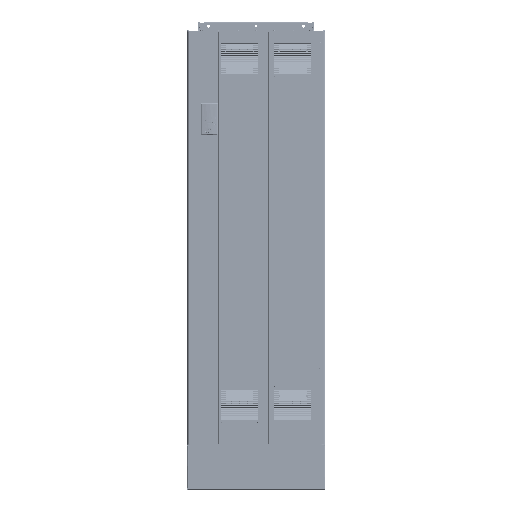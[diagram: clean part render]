
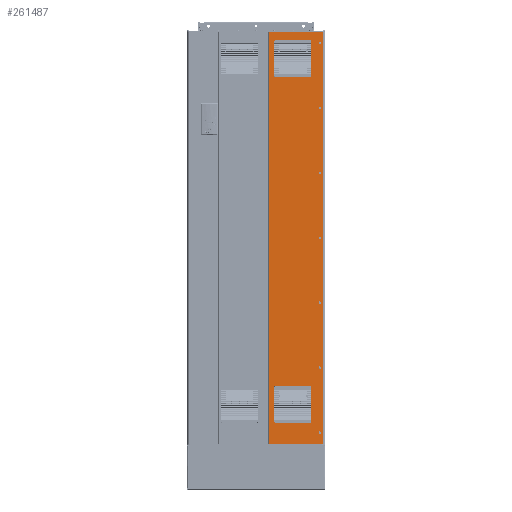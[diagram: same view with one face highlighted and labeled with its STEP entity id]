
A CAD part, top view. The second image highlights one B-rep face of the part: STEP entity #261487.
In plain terms, the highlighted planar face has unit normal (0, 0, 1) as drawn and (0, 0, -1) by its records, which use the part's own axes.
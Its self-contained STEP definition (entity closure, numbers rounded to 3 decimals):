
#260520=DIRECTION('',(-1.,0.,0.));
#260521=VECTOR('',#260520,236.508);
#260522=CARTESIAN_POINT('',(258.808,0.,-3.));
#260523=LINE('',#260522,#260521);
#260718=DIRECTION('',(-1.,0.,0.));
#260719=VECTOR('',#260718,236.508);
#260720=CARTESIAN_POINT('',(258.808,1798.5,-3.));
#260721=LINE('',#260720,#260719);
#260722=DIRECTION('',(0.,-1.,0.));
#260723=VECTOR('',#260722,1798.5);
#260724=CARTESIAN_POINT('',(22.3,1798.5,-3.));
#260725=LINE('',#260724,#260723);
#260726=DIRECTION('',(0.,1.,0.));
#260727=VECTOR('',#260726,1798.5);
#260728=CARTESIAN_POINT('',(258.808,0.,-3.));
#260729=LINE('',#260728,#260727);
#260730=DIRECTION('',(0.,1.,0.));
#260731=VECTOR('',#260730,139.2);
#260732=CARTESIAN_POINT('',(61.281,1557.1,-3.));
#260733=LINE('',#260732,#260731);
#260734=DIRECTION('',(1.,0.,0.));
#260735=VECTOR('',#260734,132.6);
#260736=CARTESIAN_POINT('',(61.281,1696.3,-3.));
#260737=LINE('',#260736,#260735);
#260738=DIRECTION('',(0.,-1.,0.));
#260739=VECTOR('',#260738,139.2);
#260740=CARTESIAN_POINT('',(193.881,1696.3,-3.));
#260741=LINE('',#260740,#260739);
#260742=DIRECTION('',(-1.,0.,0.));
#260743=VECTOR('',#260742,132.6);
#260744=CARTESIAN_POINT('',(193.881,1557.1,-3.));
#260745=LINE('',#260744,#260743);
#260746=DIRECTION('',(0.,1.,0.));
#260747=VECTOR('',#260746,139.2);
#260748=CARTESIAN_POINT('',(61.281,47.2,-3.));
#260749=LINE('',#260748,#260747);
#260750=DIRECTION('',(1.,0.,0.));
#260751=VECTOR('',#260750,132.6);
#260752=CARTESIAN_POINT('',(61.281,186.4,-3.));
#260753=LINE('',#260752,#260751);
#260754=DIRECTION('',(0.,-1.,0.));
#260755=VECTOR('',#260754,139.2);
#260756=CARTESIAN_POINT('',(193.881,186.4,-3.));
#260757=LINE('',#260756,#260755);
#260758=DIRECTION('',(-1.,0.,0.));
#260759=VECTOR('',#260758,132.6);
#260760=CARTESIAN_POINT('',(193.881,47.2,-3.));
#260761=LINE('',#260760,#260759);
#260762=CARTESIAN_POINT('',(245.728,1465.9,-3.));
#260763=DIRECTION('',(0.,0.,-1.));
#260764=DIRECTION('',(1.,0.,0.));
#260765=AXIS2_PLACEMENT_3D('',#260762,#260763,#260764);
#260767=CARTESIAN_POINT('',(245.728,1465.9,-3.));
#260768=DIRECTION('',(0.,0.,-1.));
#260769=DIRECTION('',(-1.,0.,0.));
#260770=AXIS2_PLACEMENT_3D('',#260767,#260768,#260769);
#260772=CARTESIAN_POINT('',(245.728,615.91,-3.));
#260773=DIRECTION('',(0.,0.,-1.));
#260774=DIRECTION('',(1.,0.,0.));
#260775=AXIS2_PLACEMENT_3D('',#260772,#260773,#260774);
#260777=CARTESIAN_POINT('',(245.728,615.91,-3.));
#260778=DIRECTION('',(0.,0.,-1.));
#260779=DIRECTION('',(-1.,0.,0.));
#260780=AXIS2_PLACEMENT_3D('',#260777,#260778,#260779);
#260782=CARTESIAN_POINT('',(245.728,332.58,-3.));
#260783=DIRECTION('',(0.,0.,-1.));
#260784=DIRECTION('',(1.,0.,0.));
#260785=AXIS2_PLACEMENT_3D('',#260782,#260783,#260784);
#260787=CARTESIAN_POINT('',(245.728,332.58,-3.));
#260788=DIRECTION('',(0.,0.,-1.));
#260789=DIRECTION('',(-1.,0.,0.));
#260790=AXIS2_PLACEMENT_3D('',#260787,#260788,#260789);
#260792=CARTESIAN_POINT('',(245.728,1182.57,-3.));
#260793=DIRECTION('',(0.,0.,-1.));
#260794=DIRECTION('',(1.,0.,0.));
#260795=AXIS2_PLACEMENT_3D('',#260792,#260793,#260794);
#260797=CARTESIAN_POINT('',(245.728,1182.57,-3.));
#260798=DIRECTION('',(0.,0.,-1.));
#260799=DIRECTION('',(-1.,0.,0.));
#260800=AXIS2_PLACEMENT_3D('',#260797,#260798,#260799);
#260802=CARTESIAN_POINT('',(245.728,1749.23,-3.));
#260803=DIRECTION('',(0.,0.,-1.));
#260804=DIRECTION('',(1.,0.,0.));
#260805=AXIS2_PLACEMENT_3D('',#260802,#260803,#260804);
#260807=CARTESIAN_POINT('',(245.728,1749.23,-3.));
#260808=DIRECTION('',(0.,0.,-1.));
#260809=DIRECTION('',(-1.,0.,0.));
#260810=AXIS2_PLACEMENT_3D('',#260807,#260808,#260809);
#260812=CARTESIAN_POINT('',(245.728,899.24,-3.));
#260813=DIRECTION('',(0.,0.,-1.));
#260814=DIRECTION('',(1.,0.,0.));
#260815=AXIS2_PLACEMENT_3D('',#260812,#260813,#260814);
#260817=CARTESIAN_POINT('',(245.728,899.24,-3.));
#260818=DIRECTION('',(0.,0.,-1.));
#260819=DIRECTION('',(-1.,0.,0.));
#260820=AXIS2_PLACEMENT_3D('',#260817,#260818,#260819);
#260822=CARTESIAN_POINT('',(245.728,49.25,-3.));
#260823=DIRECTION('',(0.,0.,-1.));
#260824=DIRECTION('',(1.,0.,0.));
#260825=AXIS2_PLACEMENT_3D('',#260822,#260823,#260824);
#260827=CARTESIAN_POINT('',(245.728,49.25,-3.));
#260828=DIRECTION('',(0.,0.,-1.));
#260829=DIRECTION('',(-1.,0.,0.));
#260830=AXIS2_PLACEMENT_3D('',#260827,#260828,#260829);
#261004=CARTESIAN_POINT('',(258.808,0.,-3.));
#261006=VERTEX_POINT('',#261004);
#261015=CARTESIAN_POINT('',(258.808,1798.5,-3.));
#261016=CARTESIAN_POINT('',(22.3,1798.5,-3.));
#261017=VERTEX_POINT('',#261015);
#261018=VERTEX_POINT('',#261016);
#261049=CARTESIAN_POINT('',(61.281,1557.1,-3.));
#261050=CARTESIAN_POINT('',(61.281,1696.3,-3.));
#261051=VERTEX_POINT('',#261049);
#261052=VERTEX_POINT('',#261050);
#261053=CARTESIAN_POINT('',(193.881,1696.3,-3.));
#261054=VERTEX_POINT('',#261053);
#261055=CARTESIAN_POINT('',(193.881,1557.1,-3.));
#261056=VERTEX_POINT('',#261055);
#261065=CARTESIAN_POINT('',(61.281,47.2,-3.));
#261066=CARTESIAN_POINT('',(61.281,186.4,-3.));
#261067=VERTEX_POINT('',#261065);
#261068=VERTEX_POINT('',#261066);
#261069=CARTESIAN_POINT('',(193.881,186.4,-3.));
#261070=VERTEX_POINT('',#261069);
#261071=CARTESIAN_POINT('',(193.881,47.2,-3.));
#261072=VERTEX_POINT('',#261071);
#261074=CARTESIAN_POINT('',(22.3,0.,-3.));
#261076=VERTEX_POINT('',#261074);
#261085=CARTESIAN_POINT('',(248.028,1749.23,-3.));
#261087=VERTEX_POINT('',#261085);
#261089=CARTESIAN_POINT('',(243.428,1749.23,-3.));
#261091=VERTEX_POINT('',#261089);
#261093=CARTESIAN_POINT('',(248.028,1465.9,-3.));
#261095=VERTEX_POINT('',#261093);
#261097=CARTESIAN_POINT('',(243.428,1465.9,-3.));
#261099=VERTEX_POINT('',#261097);
#261101=CARTESIAN_POINT('',(248.028,899.24,-3.));
#261103=VERTEX_POINT('',#261101);
#261105=CARTESIAN_POINT('',(243.428,899.24,-3.));
#261107=VERTEX_POINT('',#261105);
#261109=CARTESIAN_POINT('',(248.028,615.91,-3.));
#261111=VERTEX_POINT('',#261109);
#261113=CARTESIAN_POINT('',(243.428,615.91,-3.));
#261115=VERTEX_POINT('',#261113);
#261117=CARTESIAN_POINT('',(248.028,49.25,-3.));
#261119=VERTEX_POINT('',#261117);
#261121=CARTESIAN_POINT('',(243.428,49.25,-3.));
#261123=VERTEX_POINT('',#261121);
#261125=CARTESIAN_POINT('',(248.028,332.58,-3.));
#261127=VERTEX_POINT('',#261125);
#261129=CARTESIAN_POINT('',(243.428,332.58,-3.));
#261131=VERTEX_POINT('',#261129);
#261133=CARTESIAN_POINT('',(248.028,1182.57,-3.));
#261135=VERTEX_POINT('',#261133);
#261137=CARTESIAN_POINT('',(243.428,1182.57,-3.));
#261139=VERTEX_POINT('',#261137);
#261414=CARTESIAN_POINT('',(258.808,0.,-3.));
#261415=DIRECTION('',(0.,0.,-1.));
#261416=DIRECTION('',(-1.,0.,0.));
#261417=AXIS2_PLACEMENT_3D('',#261414,#261415,#261416);
#261418=PLANE('',#261417);
#261419=ORIENTED_EDGE('',*,*,#261216,.T.);
#261420=ORIENTED_EDGE('',*,*,#261195,.T.);
#261421=ORIENTED_EDGE('',*,*,#261180,.F.);
#261422=ORIENTED_EDGE('',*,*,#261407,.T.);
#261423=EDGE_LOOP('',(#261419,#261420,#261421,#261422));
#261424=FACE_OUTER_BOUND('',#261423,.F.);
#261426=ORIENTED_EDGE('',*,*,#261425,.T.);
#261428=ORIENTED_EDGE('',*,*,#261427,.T.);
#261430=ORIENTED_EDGE('',*,*,#261429,.T.);
#261432=ORIENTED_EDGE('',*,*,#261431,.T.);
#261433=EDGE_LOOP('',(#261426,#261428,#261430,#261432));
#261434=FACE_BOUND('',#261433,.F.);
#261436=ORIENTED_EDGE('',*,*,#261435,.T.);
#261438=ORIENTED_EDGE('',*,*,#261437,.T.);
#261440=ORIENTED_EDGE('',*,*,#261439,.T.);
#261442=ORIENTED_EDGE('',*,*,#261441,.T.);
#261443=EDGE_LOOP('',(#261436,#261438,#261440,#261442));
#261444=FACE_BOUND('',#261443,.F.);
#261446=ORIENTED_EDGE('',*,*,#261445,.T.);
#261448=ORIENTED_EDGE('',*,*,#261447,.T.);
#261449=EDGE_LOOP('',(#261446,#261448));
#261450=FACE_BOUND('',#261449,.F.);
#261452=ORIENTED_EDGE('',*,*,#261451,.T.);
#261454=ORIENTED_EDGE('',*,*,#261453,.T.);
#261455=EDGE_LOOP('',(#261452,#261454));
#261456=FACE_BOUND('',#261455,.F.);
#261458=ORIENTED_EDGE('',*,*,#261457,.T.);
#261460=ORIENTED_EDGE('',*,*,#261459,.T.);
#261461=EDGE_LOOP('',(#261458,#261460));
#261462=FACE_BOUND('',#261461,.F.);
#261464=ORIENTED_EDGE('',*,*,#261463,.T.);
#261466=ORIENTED_EDGE('',*,*,#261465,.T.);
#261467=EDGE_LOOP('',(#261464,#261466));
#261468=FACE_BOUND('',#261467,.F.);
#261470=ORIENTED_EDGE('',*,*,#261469,.T.);
#261472=ORIENTED_EDGE('',*,*,#261471,.T.);
#261473=EDGE_LOOP('',(#261470,#261472));
#261474=FACE_BOUND('',#261473,.F.);
#261476=ORIENTED_EDGE('',*,*,#261475,.T.);
#261478=ORIENTED_EDGE('',*,*,#261477,.T.);
#261479=EDGE_LOOP('',(#261476,#261478));
#261480=FACE_BOUND('',#261479,.F.);
#261482=ORIENTED_EDGE('',*,*,#261481,.T.);
#261484=ORIENTED_EDGE('',*,*,#261483,.T.);
#261485=EDGE_LOOP('',(#261482,#261484));
#261486=FACE_BOUND('',#261485,.F.);
#261487=ADVANCED_FACE('',(#261424,#261434,#261444,#261450,#261456,#261462,
#261468,#261474,#261480,#261486),#261418,.T.);
#260766=CIRCLE('',#260765,2.3);
#260771=CIRCLE('',#260770,2.3);
#260776=CIRCLE('',#260775,2.3);
#260781=CIRCLE('',#260780,2.3);
#260786=CIRCLE('',#260785,2.3);
#260791=CIRCLE('',#260790,2.3);
#260796=CIRCLE('',#260795,2.3);
#260801=CIRCLE('',#260800,2.3);
#260806=CIRCLE('',#260805,2.3);
#260811=CIRCLE('',#260810,2.3);
#260816=CIRCLE('',#260815,2.3);
#260821=CIRCLE('',#260820,2.3);
#260826=CIRCLE('',#260825,2.3);
#260831=CIRCLE('',#260830,2.3);
#261180=EDGE_CURVE('',#261006,#261076,#260523,.T.);
#261195=EDGE_CURVE('',#261018,#261076,#260725,.T.);
#261216=EDGE_CURVE('',#261017,#261018,#260721,.T.);
#261407=EDGE_CURVE('',#261006,#261017,#260729,.T.);
#261425=EDGE_CURVE('',#261051,#261052,#260733,.T.);
#261427=EDGE_CURVE('',#261052,#261054,#260737,.T.);
#261429=EDGE_CURVE('',#261054,#261056,#260741,.T.);
#261431=EDGE_CURVE('',#261056,#261051,#260745,.T.);
#261435=EDGE_CURVE('',#261067,#261068,#260749,.T.);
#261437=EDGE_CURVE('',#261068,#261070,#260753,.T.);
#261439=EDGE_CURVE('',#261070,#261072,#260757,.T.);
#261441=EDGE_CURVE('',#261072,#261067,#260761,.T.);
#261445=EDGE_CURVE('',#261095,#261099,#260766,.T.);
#261447=EDGE_CURVE('',#261099,#261095,#260771,.T.);
#261451=EDGE_CURVE('',#261111,#261115,#260776,.T.);
#261453=EDGE_CURVE('',#261115,#261111,#260781,.T.);
#261457=EDGE_CURVE('',#261127,#261131,#260786,.T.);
#261459=EDGE_CURVE('',#261131,#261127,#260791,.T.);
#261463=EDGE_CURVE('',#261135,#261139,#260796,.T.);
#261465=EDGE_CURVE('',#261139,#261135,#260801,.T.);
#261469=EDGE_CURVE('',#261087,#261091,#260806,.T.);
#261471=EDGE_CURVE('',#261091,#261087,#260811,.T.);
#261475=EDGE_CURVE('',#261103,#261107,#260816,.T.);
#261477=EDGE_CURVE('',#261107,#261103,#260821,.T.);
#261481=EDGE_CURVE('',#261119,#261123,#260826,.T.);
#261483=EDGE_CURVE('',#261123,#261119,#260831,.T.);
